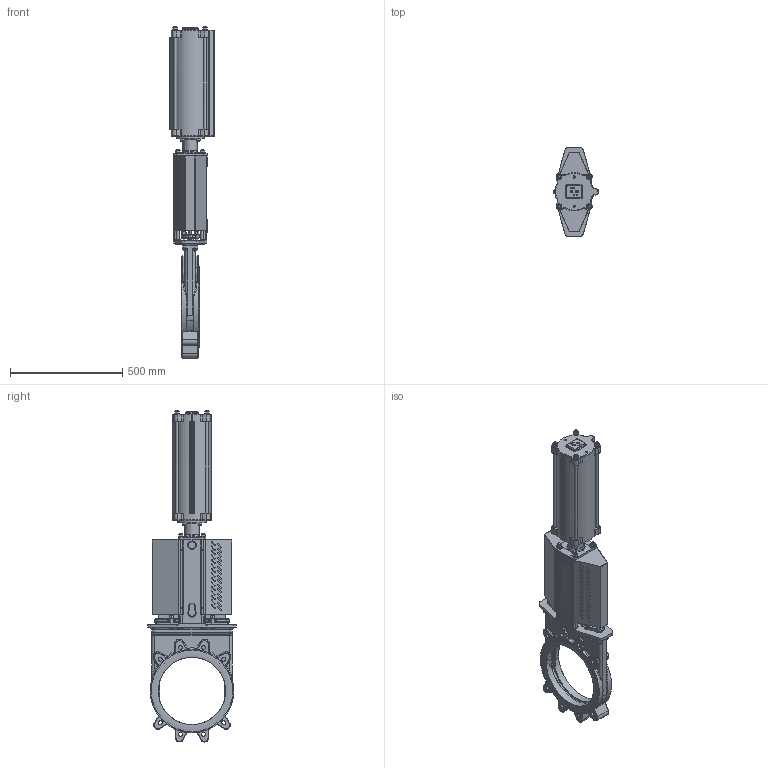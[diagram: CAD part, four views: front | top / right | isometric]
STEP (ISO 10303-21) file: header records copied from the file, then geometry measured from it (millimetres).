
FILE_DESCRIPTION(/* description */ (''),/* implementation_level */ '2;1');
FILE_NAME(/* name */ 'F:\Emir\3D-block special\WB\WB11-DN300-PN10-FRSC160-323M.stp',/* time_stamp */ '2018-02-13T16:13:14+01:00',/* author */ ('emimus'),/* organization */ (''),/* preprocessor_version */ 'ST-DEVELOPER v17',/* originating_system */ 'Autodesk Inventor 2018',/* authorisation */ '');
FILE_SCHEMA (('CONFIG_CONTROL_DESIGN'));
Products named in the file (1): WB11-DN300-PN10-FRSC160-323M
Bounding box: 198.5 x 396 x 1480.64 mm (x, y, z)
Volume: 12291285.7 mm3; surface area: 2838593.8 mm2
Topology: 2 solids, 2 shells, 2879 faces, 7352 edges, 4499 vertices
Faces by surface type: plane 1040, cylinder 920, bspline 317, torus 295, cone 219, sphere 88
Full cylindrical faces by diameter (mm): 3 x5, 4 x6, 4.134 x4, 4.2 x16, 4.5 x4, 4.917 x4, 8 x5, 8.376 x2, 9.5 x4, 10 x11, 10.106 x4, 11.445 x2, 12 x28, 13 x17, 15 x2, 16 x6, 17.5 x12, 17.7 x1, 18 x4, 18.5 x1, 20 x1, 24 x14, 28 x2, 30 x1, 30.1 x2, 34 x1, 35 x1, 36 x1, 36.4 x1, 38 x3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
Entity records: 125125 total; most frequent: CARTESIAN_POINT 56210, DIRECTION 14617, ORIENTED_EDGE 14592, EDGE_CURVE 7296, AXIS2_PLACEMENT_3D 5813, VERTEX_POINT 4499, EDGE_LOOP 3213, CIRCLE 3039
